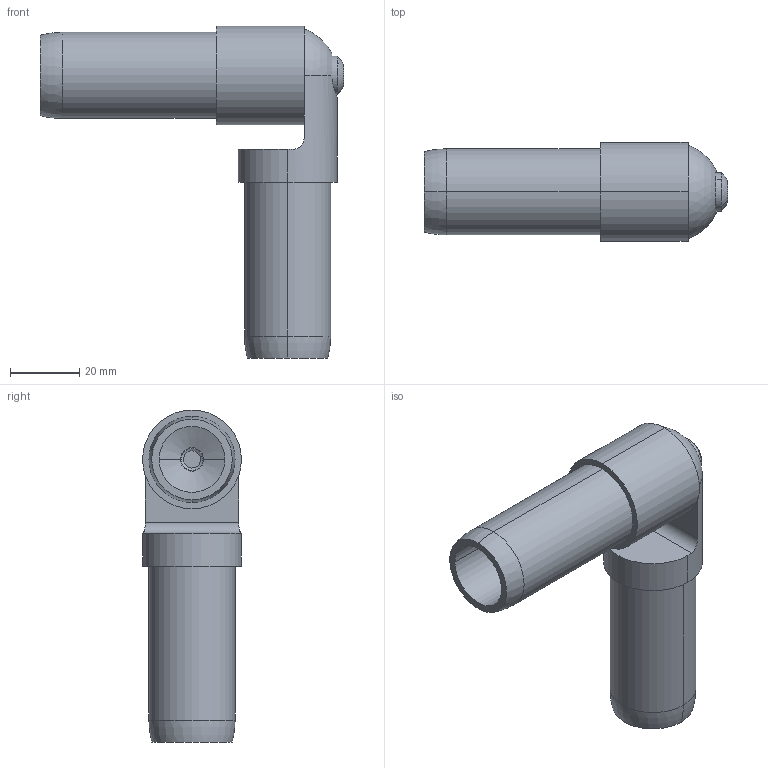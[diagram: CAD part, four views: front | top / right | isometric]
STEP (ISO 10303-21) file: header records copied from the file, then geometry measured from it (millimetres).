
FILE_DESCRIPTION (( 'STEP AP214' ), '1' );
FILE_NAME ('1 Inch Adjustable 90 Degree 2-Tube Joint Kit.STEP', '2014-01-10T16:36:59', ( 'ydmin' ), ( 'Microsoft' ), 'SwSTEP 2.0', 'SolidWorks 2013', '' );
FILE_SCHEMA (( 'AUTOMOTIVE_DESIGN' ));
Length unit declared in the file: inch
Products named in the file (1): 1 Inch Adjustable 90 Degree 2-Tube Joint Kit
Bounding box: 87.6 x 28.57 x 95.97 mm (x, y, z)
Volume: 46436.5 mm3; surface area: 23742.9 mm2
Topology: 4 solids, 4 shells, 200 faces, 422 edges, 233 vertices
Faces by surface type: cylinder 80, cone 79, plane 26, bspline 8, torus 4, sphere 3
Entity records: 13158 total; most frequent: CARTESIAN_POINT 6386, DIRECTION 855, ORIENTED_EDGE 840, EDGE_CURVE 420, AXIS2_PLACEMENT_3D 336, VERTEX_POINT 233, EDGE_LOOP 209, UNCERTAINTY_MEASURE_WITH_UNIT 206
